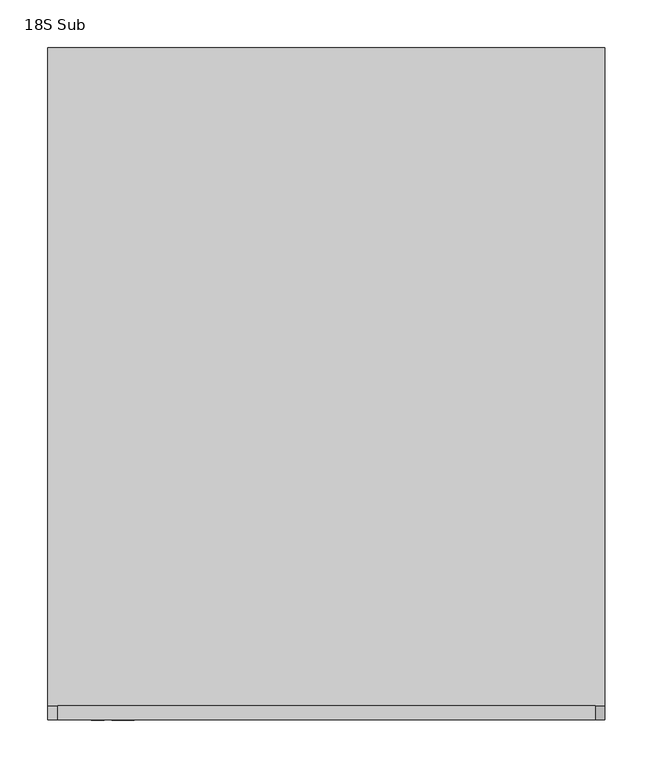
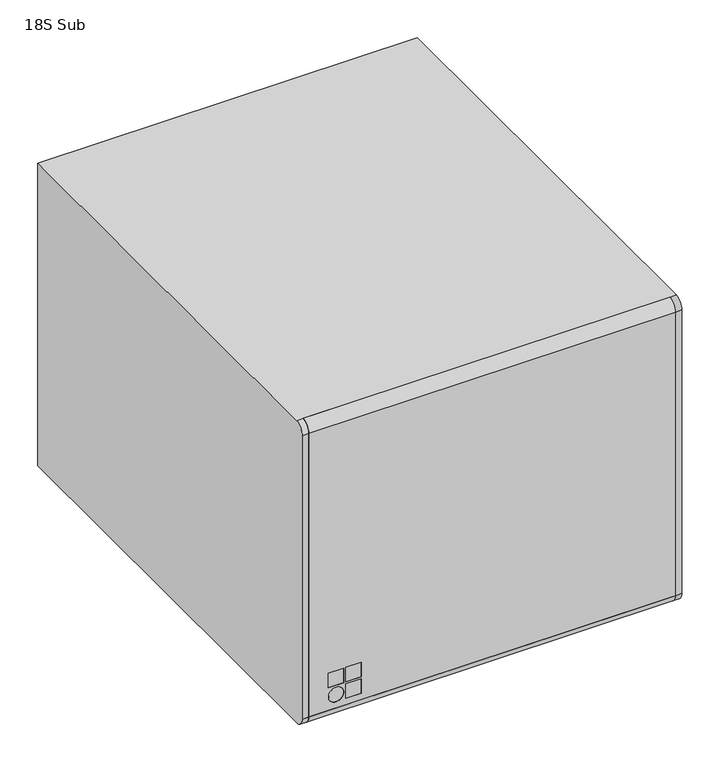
"""IFC4 building model written with IfcOpenShell, lengths in millimetres: proxy geometry, d&b xS-Series 18S Subwoofer : 18S Sub."""

from ifc_helpers import new_model, si_unit, point, frame, frame_2d, origin, place, context, project, spatial, polyline, circle_curve, trimmed, segment, composite_curve, outline, extrude, source, transform, mapped, element, save
from ifc_brep_helpers import plane_surface, cylinder_surface, revolved_surface, advanced_brep


def proxy_18s_sub_8416c1b3(model_context):
    return source(origin(), model_context, "Body", "SolidModel", [
        extrude(outline(composite_curve([segment(trimmed(circle_curve(frame_2d((-220.0, 307.0)), 18.25), [point((-201.75, 307.0))], [point((-238.25, 307.0))], False, "CARTESIAN"), True, "CONTINUOUS"), segment(trimmed(circle_curve(frame_2d((-220.0, 307.0)), 18.25), [point((-238.25, 307.0))], [point((-201.75, 307.0))], False, "CARTESIAN"), True, "CONTINUOUS")], self_intersect=False)), frame((0.0, 0.0, -247.0), z_axis=(0.0, 0.0, 1.0), x_axis=(1.0, 0.0, 0.0)), (0.0, 0.0, 1.0), 3.0),
        extrude(outline(composite_curve([segment(trimmed(circle_curve(frame_2d((220.0, 307.0)), 18.25), [point((238.25, 307.0))], [point((201.75, 307.0))], False, "CARTESIAN"), True, "CONTINUOUS"), segment(trimmed(circle_curve(frame_2d((220.0, 307.0)), 18.25), [point((201.75, 307.0))], [point((238.25, 307.0))], False, "CARTESIAN"), True, "CONTINUOUS")], self_intersect=False)), frame((0.0, 0.0, -247.0), z_axis=(0.0, 0.0, 1.0), x_axis=(1.0, 0.0, 0.0)), (0.0, 0.0, 1.0), 3.0),
        extrude(outline(composite_curve([segment(trimmed(circle_curve(frame_2d((-220.0, -288.0)), 18.25), [point((-201.75, -288.0))], [point((-238.25, -288.0))], False, "CARTESIAN"), True, "CONTINUOUS"), segment(trimmed(circle_curve(frame_2d((-220.0, -288.0)), 18.25), [point((-238.25, -288.0))], [point((-201.75, -288.0))], False, "CARTESIAN"), True, "CONTINUOUS")], self_intersect=False)), frame((0.0, 0.0, -247.0), z_axis=(0.0, 0.0, 1.0), x_axis=(1.0, 0.0, 0.0)), (0.0, 0.0, 1.0), 3.0),
        extrude(outline(composite_curve([segment(trimmed(circle_curve(frame_2d((220.0, -288.0)), 18.25), [point((238.25, -288.0))], [point((201.75, -288.0))], False, "CARTESIAN"), True, "CONTINUOUS"), segment(trimmed(circle_curve(frame_2d((220.0, -288.0)), 18.25), [point((201.75, -288.0))], [point((238.25, -288.0))], False, "CARTESIAN"), True, "CONTINUOUS")], self_intersect=False)), frame((0.0, 0.0, -247.0), z_axis=(0.0, 0.0, 1.0), x_axis=(1.0, 0.0, 0.0)), (0.0, 0.0, 1.0), 3.0),
        advanced_brep(
        [(280.0, -353.0, -229.0), (280.0, -338.0, -244.0), (280.0, -338.0, -239.0), (280.0, -348.0, -229.0), (280.0, -348.0, 229.0), (280.0, -338.0, 239.0), (280.0, -338.0, 244.0), (280.0, -353.0, 229.0), (-280.0, -353.0, -229.0), (-280.0, -353.0, 229.0), (-280.0, -338.0, 244.0), (-280.0, -338.0, 239.0), (-280.0, -348.0, 229.0), (-280.0, -348.0, -229.0), (-280.0, -338.0, -239.0), (-280.0, -338.0, -244.0), (-226.6666667, -353.0, -169.0), (-226.6666667, -353.0, -192.3333333), (-250.0, -353.0, -192.3333333), (-250.0, -353.0, -169.0), (-200.0, -353.0, -169.0), (-200.0, -353.0, -192.3333333), (-223.3333333, -353.0, -192.3333333), (-223.3333333, -353.0, -169.0), (-200.0, -353.0, -195.6666667), (-200.0, -353.0, -219.0), (-223.3333333, -353.0, -219.0), (-223.3333333, -353.0, -195.6666667), (-238.3333333, -353.0, -219.0), (-238.3333333, -353.0, -195.6666667), (-226.6666667, -348.0, -192.3333333), (-226.6666667, -348.0, -169.0), (-250.0, -348.0, -169.0), (-250.0, -348.0, -192.3333333), (-200.0, -348.0, -192.3333333), (-200.0, -348.0, -169.0), (-223.3333333, -348.0, -169.0), (-223.3333333, -348.0, -192.3333333), (-200.0, -348.0, -219.0), (-200.0, -348.0, -195.6666667), (-223.3333333, -348.0, -195.6666667), (-223.3333333, -348.0, -219.0), (-238.3333333, -348.0, -195.6666667), (-238.3333333, -348.0, -219.0)],
        [
            (0, 1, circle_curve(frame((280.0, -338.0, -229.0), z_axis=(1.0, 0.0, 0.0), x_axis=(0.0, 1.0, 0.0)), 15.0)),
            (1, 2),
            (2, 3, circle_curve(frame((280.0, -338.0, -229.0), z_axis=(-1.0, 0.0, 0.0), x_axis=(0.0, 1.0, 0.0)), 10.0)),
            (3, 4),
            (4, 5, circle_curve(frame((280.0, -338.0, 229.0), z_axis=(-1.0, 0.0, 0.0), x_axis=(0.0, 1.0, 0.0)), 10.0)),
            (5, 6),
            (6, 7, circle_curve(frame((280.0, -338.0, 229.0), z_axis=(1.0, 0.0, 0.0), x_axis=(0.0, 1.0, 0.0)), 15.0)),
            (7, 0),
            (8, 9),
            (9, 10, circle_curve(frame((-280.0, -338.0, 229.0), z_axis=(-1.0, 0.0, 0.0), x_axis=(0.0, 1.0, 0.0)), 15.0)),
            (10, 11),
            (11, 12, circle_curve(frame((-280.0, -338.0, 229.0), z_axis=(1.0, 0.0, 0.0), x_axis=(0.0, 1.0, 0.0)), 10.0)),
            (12, 13),
            (13, 14, circle_curve(frame((-280.0, -338.0, -229.0), z_axis=(1.0, 0.0, 0.0), x_axis=(0.0, 1.0, 0.0)), 10.0)),
            (14, 15),
            (15, 8, circle_curve(frame((-280.0, -338.0, -229.0), z_axis=(-1.0, 0.0, 0.0), x_axis=(0.0, 1.0, 0.0)), 15.0)),
            (6, 10),
            (9, 7),
            (8, 0),
            (16, 17),
            (17, 18),
            (18, 19),
            (19, 16),
            (20, 21),
            (21, 22),
            (22, 23),
            (23, 20),
            (24, 25),
            (25, 26),
            (26, 27),
            (27, 24),
            (28, 29, circle_curve(frame((-238.3333333, -353.0, -207.3333333), z_axis=(0.0, 1.0, 0.0), x_axis=(0.0, 0.0, 1.0)), 11.6666667)),
            (29, 28, circle_curve(frame((-238.3333333, -353.0, -207.3333333), z_axis=(0.0, 1.0, 0.0), x_axis=(0.0, 0.0, 1.0)), 11.6666667)),
            (15, 1),
            (14, 2),
            (13, 3),
            (12, 4),
            (30, 31),
            (31, 32),
            (32, 33),
            (33, 30),
            (34, 35),
            (35, 36),
            (36, 37),
            (37, 34),
            (38, 39),
            (39, 40),
            (40, 41),
            (41, 38),
            (42, 43, circle_curve(frame((-238.3333333, -348.0, -207.3333333), z_axis=(0.0, -1.0, 0.0), x_axis=(0.0, 0.0, 1.0)), 11.6666667)),
            (43, 42, circle_curve(frame((-238.3333333, -348.0, -207.3333333), z_axis=(0.0, -1.0, 0.0), x_axis=(0.0, 0.0, 1.0)), 11.6666667)),
            (11, 5),
            (16, 31),
            (30, 17),
            (33, 18),
            (32, 19),
            (20, 35),
            (34, 21),
            (37, 22),
            (36, 23),
            (24, 39),
            (38, 25),
            (41, 26),
            (40, 27),
            (28, 43),
            (42, 29),
        ],
        [
            plane_surface(frame((280.0, -323.0, -229.0), z_axis=(1.0, 0.0, 0.0), x_axis=(0.0, 0.0, 1.0))),
            plane_surface(frame((-280.0, -323.0, -229.0), z_axis=(-1.0, 0.0, 0.0), x_axis=(0.0, 0.0, -1.0))),
            cylinder_surface(frame((-280.0, -338.0, 229.0), z_axis=(1.0, 0.0, 0.0), x_axis=(0.0, 1.0, 0.0)), 15.0),
            plane_surface(frame((280.0, -353.0, 229.0), z_axis=(0.0, -1.0, 0.0), x_axis=(-1.0, 0.0, 0.0))),
            cylinder_surface(frame((-280.0, -338.0, -229.0), z_axis=(1.0, 0.0, 0.0), x_axis=(0.0, 1.0, 0.0)), 15.0),
            plane_surface(frame((280.0, -338.0, -244.0), z_axis=(0.0, 1.0, 0.0), x_axis=(-1.0, 0.0, 0.0))),
            revolved_surface(polyline([(-280.0, -328.0, -229.0), (280.0, -328.0, -229.0)]), (-280.0, -338.0, -229.0), (-1.0, 0.0, 0.0)),
            plane_surface(frame((280.0, -348.0, -229.0), z_axis=(0.0, 1.0, 0.0), x_axis=(-1.0, 0.0, 0.0))),
            revolved_surface(polyline([(-280.0, -328.0, 229.0), (280.0, -328.0, 229.0)]), (-280.0, -338.0, 229.0), (-1.0, 0.0, 0.0)),
            plane_surface(frame((280.0, -338.0, 239.0), z_axis=(0.0, 1.0, 0.0), x_axis=(-1.0, 0.0, 0.0))),
            plane_surface(frame((-226.6666667, -353.0, -192.3333333), z_axis=(-1.0, 0.0, 0.0), x_axis=(0.0, 1.0, 0.0))),
            plane_surface(frame((-250.0, -353.0, -192.3333333), z_axis=(0.0, 0.0, 1.0), x_axis=(0.0, 1.0, 0.0))),
            plane_surface(frame((-250.0, -353.0, -169.0), z_axis=(1.0, 0.0, 0.0), x_axis=(0.0, 1.0, 0.0))),
            plane_surface(frame((-226.6666667, -353.0, -169.0), z_axis=(0.0, 0.0, -1.0), x_axis=(0.0, 1.0, 0.0))),
            plane_surface(frame((-200.0, -353.0, -192.3333333), z_axis=(-1.0, 0.0, 0.0), x_axis=(0.0, 1.0, 0.0))),
            plane_surface(frame((-223.3333333, -353.0, -192.3333333), z_axis=(0.0, 0.0, 1.0), x_axis=(0.0, 1.0, 0.0))),
            plane_surface(frame((-223.3333333, -353.0, -169.0), z_axis=(1.0, 0.0, 0.0), x_axis=(0.0, 1.0, 0.0))),
            plane_surface(frame((-200.0, -353.0, -169.0), z_axis=(0.0, 0.0, -1.0), x_axis=(0.0, 1.0, 0.0))),
            plane_surface(frame((-200.0, -353.0, -219.0), z_axis=(-1.0, 0.0, 0.0), x_axis=(0.0, 1.0, 0.0))),
            plane_surface(frame((-223.3333333, -353.0, -219.0), z_axis=(0.0, 0.0, 1.0), x_axis=(0.0, 1.0, 0.0))),
            plane_surface(frame((-223.3333333, -353.0, -195.6666667), z_axis=(1.0, 0.0, 0.0), x_axis=(0.0, 1.0, 0.0))),
            plane_surface(frame((-200.0, -353.0, -195.6666667), z_axis=(0.0, 0.0, -1.0), x_axis=(0.0, 1.0, 0.0))),
            revolved_surface(polyline([(-238.3333333, -353.0, -195.66666659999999), (-238.3333333, -348.0, -195.66666659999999)]), (-238.3333333, -353.0, -207.3333333), (0.0, -1.0, 0.0)),
        ],
        [
            (0, [[1, 2, 3, 4, 5, 6, 7, 8]]),
            (1, [[9, 10, 11, 12, 13, 14, 15, 16]]),
            (2, [[-7, 17, -10, 18]]),
            (3, [[-8, -18, -9, 19], [20, 21, 22, 23], [24, 25, 26, 27], [28, 29, 30, 31], [32, 33]]),
            (4, [[-1, -19, -16, 34]]),
            (5, [[-2, -34, -15, 35]]),
            (6, [[-3, -35, -14, 36]]),
            (7, [[-4, -36, -13, 37], [38, 39, 40, 41], [42, 43, 44, 45], [46, 47, 48, 49], [50, 51]]),
            (8, [[-5, -37, -12, 52]]),
            (9, [[-6, -52, -11, -17]]),
            (10, [[53, -38, 54, -20]]),
            (11, [[-54, -41, 55, -21]]),
            (12, [[-55, -40, 56, -22]]),
            (13, [[-53, -23, -56, -39]]),
            (14, [[57, -42, 58, -24]]),
            (15, [[-58, -45, 59, -25]]),
            (16, [[-59, -44, 60, -26]]),
            (17, [[-57, -27, -60, -43]]),
            (18, [[61, -46, 62, -28]]),
            (19, [[-62, -49, 63, -29]]),
            (20, [[-63, -48, 64, -30]]),
            (21, [[-61, -31, -64, -47]]),
            (22, [[65, -50, 66, -32]]),
            (22, [[-65, -33, -66, -51]]),
        ],
    ),
        extrude(outline(polyline([(-226.6666667, -353.0), (-250.0, -353.0), (-250.0, -348.0), (-226.6666667, -348.0), (-226.6666667, -353.0)])), frame((0.0, 0.0, -192.3333333), z_axis=(0.0, 0.0, 1.0), x_axis=(1.0, 0.0, 0.0)), (0.0, 0.0, 1.0), 23.3333333),
        extrude(outline(polyline([(-200.0, -353.0), (-223.3333333, -353.0), (-223.3333333, -348.0), (-200.0, -348.0), (-200.0, -353.0)])), frame((0.0, 0.0, -192.3333333), z_axis=(0.0, 0.0, 1.0), x_axis=(1.0, 0.0, 0.0)), (0.0, 0.0, 1.0), 23.3333333),
        extrude(outline(polyline([(-200.0, -353.0), (-223.3333333, -353.0), (-223.3333333, -348.0), (-200.0, -348.0), (-200.0, -353.0)])), frame((0.0, 0.0, -219.0), z_axis=(0.0, 0.0, 1.0), x_axis=(1.0, 0.0, 0.0)), (0.0, 0.0, 1.0), 23.3333333),
        extrude(outline(composite_curve([segment(trimmed(circle_curve(frame_2d((-207.3333333, -238.3333333)), 11.6666667), [point((-219.0, -238.3333333))], [point((-195.6666667, -238.3333333))], False, "CARTESIAN"), True, "CONTINUOUS"), segment(trimmed(circle_curve(frame_2d((-207.3333333, -238.3333333)), 11.6666667), [point((-195.6666667, -238.3333333))], [point((-219.0, -238.3333333))], False, "CARTESIAN"), True, "CONTINUOUS")], self_intersect=False)), frame((0.0, -353.0, 0.0), z_axis=(0.0, 1.0, 0.0), x_axis=(0.0, 0.0, 1.0)), (0.0, 0.0, 1.0), 5.0),
        advanced_brep(
        [(280.0, -338.0, -244.0), (-280.0, -338.0, -244.0), (-290.0, -338.0, -244.0), (-290.0, 347.0, -244.0), (290.0, 347.0, -244.0), (290.0, -338.0, -244.0), (290.0, 347.0, 244.0), (-290.0, 347.0, 244.0), (105.0, 347.0, -145.0), (115.0, 347.0, -135.0), (115.0, 347.0, -85.0), (105.0, 347.0, -75.0), (15.0, 347.0, -75.0), (5.0, 347.0, -85.0), (5.0, 347.0, -135.0), (15.0, 347.0, -145.0), (-280.0, -338.0, 244.0), (280.0, -338.0, 244.0), (290.0, -338.0, 244.0), (-290.0, -338.0, 244.0), (-280.0, -338.0, 239.0), (280.0, -338.0, 239.0), (-280.0, -348.0, 229.0), (280.0, -348.0, 229.0), (-280.0, -348.0, -229.0), (280.0, -348.0, -229.0), (-280.0, -338.0, -239.0), (280.0, -338.0, -239.0), (280.0, -353.0, -229.0), (280.0, -353.0, 229.0), (290.0, -353.0, 229.0), (290.0, -353.0, -229.0), (-280.0, -353.0, 229.0), (-280.0, -353.0, -229.0), (-290.0, -353.0, -229.0), (-290.0, -353.0, 229.0), (115.0, 344.0, -135.0), (105.0, 344.0, -145.0), (15.0, 344.0, -145.0), (5.0, 344.0, -135.0), (5.0, 344.0, -85.0), (15.0, 344.0, -75.0), (105.0, 344.0, -75.0), (115.0, 344.0, -85.0), (95.0, 344.0, -85.0), (25.0, 344.0, -85.0), (15.0, 344.0, -95.0), (15.0, 344.0, -125.0), (25.0, 344.0, -135.0), (95.0, 344.0, -135.0), (105.0, 344.0, -125.0), (105.0, 344.0, -95.0), (25.0, 334.0, -135.0), (15.0, 334.0, -125.0), (15.0, 334.0, -95.0), (25.0, 334.0, -85.0), (46.2039304, 334.0, -85.0), (46.2039304, 334.0, -135.0), (95.0, 334.0, -135.0), (105.0, 334.0, -125.0), (95.0, 334.0, -85.0), (105.0, 334.0, -95.0), (46.2039304, 299.0, -85.0), (95.0, 299.0, -85.0), (105.0, 299.0, -95.0), (105.0, 299.0, -125.0), (95.0, 299.0, -135.0), (46.2039304, 299.0, -135.0)],
        [
            (0, 1),
            (1, 2),
            (2, 3),
            (3, 4),
            (4, 5),
            (5, 0),
            (6, 4),
            (3, 7),
            (7, 6),
            (8, 9, circle_curve(frame((105.0, 347.0, -135.0), z_axis=(0.0, -1.0, 0.0), x_axis=(-1.0, 0.0, 0.0)), 10.0)),
            (9, 10),
            (10, 11, circle_curve(frame((105.0, 347.0, -85.0), z_axis=(0.0, -1.0, 0.0), x_axis=(-1.0, 0.0, 0.0)), 10.0)),
            (11, 12),
            (12, 13, circle_curve(frame((15.0, 347.0, -85.0), z_axis=(0.0, -1.0, 0.0), x_axis=(-1.0, 0.0, 0.0)), 10.0)),
            (13, 14),
            (14, 15, circle_curve(frame((15.0, 347.0, -135.0), z_axis=(0.0, -1.0, 0.0), x_axis=(-1.0, 0.0, 0.0)), 10.0)),
            (15, 8),
            (16, 17),
            (17, 18),
            (18, 6),
            (7, 19),
            (19, 16),
            (16, 20),
            (20, 21),
            (21, 17),
            (20, 22, circle_curve(frame((-280.0, -338.0, 229.0), z_axis=(1.0, 0.0, 0.0), x_axis=(0.0, 1.0, 0.0)), 10.0)),
            (22, 23),
            (23, 21, circle_curve(frame((280.0, -338.0, 229.0), z_axis=(-1.0, 0.0, 0.0), x_axis=(0.0, 1.0, 0.0)), 10.0)),
            (22, 24),
            (24, 25),
            (25, 23),
            (24, 26, circle_curve(frame((-280.0, -338.0, -229.0), z_axis=(1.0, 0.0, 0.0), x_axis=(0.0, 1.0, 0.0)), 10.0)),
            (26, 27),
            (27, 25, circle_curve(frame((280.0, -338.0, -229.0), z_axis=(-1.0, 0.0, 0.0), x_axis=(0.0, 1.0, 0.0)), 10.0)),
            (0, 27),
            (26, 1),
            (0, 28, circle_curve(frame((280.0, -338.0, -229.0), z_axis=(-1.0, 0.0, 0.0), x_axis=(0.0, 1.0, 0.0)), 15.0)),
            (28, 29),
            (29, 17, circle_curve(frame((280.0, -338.0, 229.0), z_axis=(-1.0, 0.0, 0.0), x_axis=(0.0, 1.0, 0.0)), 15.0)),
            (18, 30, circle_curve(frame((290.0, -338.0, 229.0), z_axis=(1.0, 0.0, 0.0), x_axis=(0.0, 1.0, 0.0)), 15.0)),
            (30, 31),
            (31, 5, circle_curve(frame((290.0, -338.0, -229.0), z_axis=(1.0, 0.0, 0.0), x_axis=(0.0, 1.0, 0.0)), 15.0)),
            (29, 30),
            (28, 31),
            (16, 32, circle_curve(frame((-280.0, -338.0, 229.0), z_axis=(1.0, 0.0, 0.0), x_axis=(0.0, 1.0, 0.0)), 15.0)),
            (32, 33),
            (33, 1, circle_curve(frame((-280.0, -338.0, -229.0), z_axis=(1.0, 0.0, 0.0), x_axis=(0.0, 1.0, 0.0)), 15.0)),
            (2, 34, circle_curve(frame((-290.0, -338.0, -229.0), z_axis=(-1.0, 0.0, 0.0), x_axis=(0.0, 1.0, 0.0)), 15.0)),
            (34, 35),
            (35, 19, circle_curve(frame((-290.0, -338.0, 229.0), z_axis=(-1.0, 0.0, 0.0), x_axis=(0.0, 1.0, 0.0)), 15.0)),
            (35, 32),
            (34, 33),
            (36, 37, circle_curve(frame((105.0, 344.0, -135.0), z_axis=(0.0, 1.0, 0.0), x_axis=(-1.0, 0.0, 0.0)), 10.0)),
            (37, 38),
            (38, 39, circle_curve(frame((15.0, 344.0, -135.0), z_axis=(0.0, 1.0, 0.0), x_axis=(-1.0, 0.0, 0.0)), 10.0)),
            (39, 40),
            (40, 41, circle_curve(frame((15.0, 344.0, -85.0), z_axis=(0.0, 1.0, 0.0), x_axis=(-1.0, 0.0, 0.0)), 10.0)),
            (41, 42),
            (42, 43, circle_curve(frame((105.0, 344.0, -85.0), z_axis=(0.0, 1.0, 0.0), x_axis=(-1.0, 0.0, 0.0)), 10.0)),
            (43, 36),
            (44, 45),
            (45, 46, circle_curve(frame((25.0, 344.0, -95.0), z_axis=(0.0, -1.0, 0.0), x_axis=(-1.0, 0.0, 0.0)), 10.0)),
            (46, 47),
            (47, 48, circle_curve(frame((25.0, 344.0, -125.0), z_axis=(0.0, -1.0, 0.0), x_axis=(-1.0, 0.0, 0.0)), 10.0)),
            (48, 49),
            (49, 50, circle_curve(frame((95.0, 344.0, -125.0), z_axis=(0.0, -1.0, 0.0), x_axis=(-1.0, 0.0, 0.0)), 10.0)),
            (50, 51),
            (51, 44, circle_curve(frame((95.0, 344.0, -95.0), z_axis=(0.0, -1.0, 0.0), x_axis=(-1.0, 0.0, 0.0)), 10.0)),
            (36, 9),
            (8, 37),
            (15, 38),
            (14, 39),
            (13, 40),
            (12, 41),
            (11, 42),
            (10, 43),
            (52, 53, circle_curve(frame((25.0, 334.0, -125.0), z_axis=(0.0, 1.0, 0.0), x_axis=(-1.0, 0.0, 0.0)), 10.0)),
            (53, 54),
            (54, 55, circle_curve(frame((25.0, 334.0, -95.0), z_axis=(0.0, 1.0, 0.0), x_axis=(-1.0, 0.0, 0.0)), 10.0)),
            (55, 56),
            (56, 57),
            (57, 52),
            (54, 46),
            (45, 55),
            (53, 47),
            (52, 48),
            (49, 58),
            (58, 59, circle_curve(frame((95.0, 334.0, -125.0), z_axis=(0.0, -1.0, 0.0), x_axis=(-1.0, 0.0, 0.0)), 10.0)),
            (59, 50),
            (60, 44),
            (51, 61),
            (61, 60, circle_curve(frame((95.0, 334.0, -95.0), z_axis=(0.0, -1.0, 0.0), x_axis=(-1.0, 0.0, 0.0)), 10.0)),
            (62, 63),
            (63, 64, circle_curve(frame((95.0, 299.0, -95.0), z_axis=(0.0, 1.0, 0.0), x_axis=(-1.0, 0.0, 0.0)), 10.0)),
            (64, 65),
            (65, 66, circle_curve(frame((95.0, 299.0, -125.0), z_axis=(0.0, 1.0, 0.0), x_axis=(-1.0, 0.0, 0.0)), 10.0)),
            (66, 67),
            (67, 62),
            (67, 57),
            (56, 62),
            (60, 63),
            (61, 64),
            (59, 65),
            (58, 66),
        ],
        [
            plane_surface(frame((280.0, -338.0, -244.0), z_axis=(0.0, 0.0, -1.0), x_axis=(-1.0, 0.0, 0.0))),
            plane_surface(frame((280.0, 347.0, -244.0), z_axis=(0.0, 1.0, 0.0), x_axis=(-1.0, 0.0, 0.0))),
            plane_surface(frame((280.0, 347.0, 244.0), z_axis=(0.0, 0.0, 1.0), x_axis=(-1.0, 0.0, 0.0))),
            plane_surface(frame((280.0, -338.0, 244.0), z_axis=(0.0, -1.0, 0.0), x_axis=(-1.0, 0.0, 0.0))),
            cylinder_surface(frame((-280.0, -338.0, 229.0), z_axis=(1.0, 0.0, 0.0), x_axis=(0.0, 1.0, 0.0)), 10.0),
            plane_surface(frame((280.0, -348.0, 229.0), z_axis=(0.0, -1.0, 0.0), x_axis=(-1.0, 0.0, 0.0))),
            cylinder_surface(frame((-280.0, -338.0, -229.0), z_axis=(1.0, 0.0, 0.0), x_axis=(0.0, 1.0, 0.0)), 10.0),
            plane_surface(frame((280.0, -338.0, -239.0), z_axis=(0.0, -1.0, 0.0), x_axis=(-1.0, 0.0, 0.0))),
            plane_surface(frame((280.0, 265.5, 244.0), z_axis=(-1.0, 0.0, 0.0), x_axis=(0.0, 1.0, 0.0))),
            plane_surface(frame((290.0, 265.5, 244.0), z_axis=(1.0, 0.0, 0.0), x_axis=(0.0, -1.0, 0.0))),
            cylinder_surface(frame((290.0, -338.0, 229.0), z_axis=(-1.0, 0.0, 0.0), x_axis=(0.0, 1.0, 0.0)), 15.0),
            plane_surface(frame((280.0, -353.0, -229.0), z_axis=(0.0, -1.0, 0.0), x_axis=(1.0, 0.0, 0.0))),
            cylinder_surface(frame((290.0, -338.0, -229.0), z_axis=(-1.0, 0.0, 0.0), x_axis=(0.0, 1.0, 0.0)), 15.0),
            plane_surface(frame((-280.0, -323.0, 229.0), z_axis=(1.0, 0.0, 0.0), x_axis=(0.0, 0.0, 1.0))),
            plane_surface(frame((-290.0, -323.0, 229.0), z_axis=(-1.0, 0.0, 0.0), x_axis=(0.0, 0.0, -1.0))),
            cylinder_surface(frame((-290.0, -338.0, 229.0), z_axis=(1.0, 0.0, 0.0), x_axis=(0.0, 1.0, 0.0)), 15.0),
            plane_surface(frame((-280.0, -353.0, 229.0), z_axis=(0.0, -1.0, 0.0), x_axis=(-1.0, 0.0, 0.0))),
            cylinder_surface(frame((-290.0, -338.0, -229.0), z_axis=(1.0, 0.0, 0.0), x_axis=(0.0, 1.0, 0.0)), 15.0),
            plane_surface(frame((95.0, 344.0, -135.0), z_axis=(0.0, 1.0, 0.0), x_axis=(0.0, 0.0, -1.0))),
            revolved_surface(polyline([(95.0, 347.0, -135.0), (95.0, 344.0, -135.0)]), (105.0, 344.0, -135.0), (0.0, 1.0, 0.0)),
            plane_surface(frame((105.0, 347.0, -145.0), z_axis=(0.0, 0.0, 1.0), x_axis=(0.0, -1.0, 0.0))),
            revolved_surface(polyline([(5.0, 347.0, -135.0), (5.0, 344.0, -135.0)]), (15.0, 344.0, -135.0), (0.0, 1.0, 0.0)),
            plane_surface(frame((5.0, 347.0, -135.0), z_axis=(1.0, 0.0, 0.0), x_axis=(0.0, -1.0, 0.0))),
            revolved_surface(polyline([(5.0, 347.0, -85.0), (5.0, 344.0, -85.0)]), (15.0, 344.0, -85.0), (0.0, 1.0, 0.0)),
            plane_surface(frame((15.0, 347.0, -75.0), z_axis=(0.0, 0.0, -1.0), x_axis=(0.0, -1.0, 0.0))),
            revolved_surface(polyline([(95.0, 347.0, -85.0), (95.0, 344.0, -85.0)]), (105.0, 344.0, -85.0), (0.0, 1.0, 0.0)),
            plane_surface(frame((115.0, 347.0, -85.0), z_axis=(-1.0, 0.0, 0.0), x_axis=(0.0, -1.0, 0.0))),
            plane_surface(frame((85.0, 334.0, -95.0), z_axis=(0.0, 1.0, 0.0), x_axis=(0.0, 0.0, -1.0))),
            revolved_surface(polyline([(15.0, 344.0, -95.0), (15.0, 334.0, -95.0)]), (25.0, 334.0, -95.0), (0.0, 1.0, 0.0)),
            plane_surface(frame((15.0, 344.0, -125.0), z_axis=(1.0, 0.0, 0.0), x_axis=(0.0, -1.0, 0.0))),
            revolved_surface(polyline([(15.0, 344.0, -125.0), (15.0, 334.0, -125.0)]), (25.0, 334.0, -125.0), (0.0, 1.0, 0.0)),
            revolved_surface(polyline([(85.0, 344.0, -125.0), (85.0, 334.0, -125.0)]), (95.0, 334.0, -125.0), (0.0, 1.0, 0.0)),
            revolved_surface(polyline([(85.0, 344.0, -95.0), (85.0, 334.0, -95.0)]), (95.0, 334.0, -95.0), (0.0, 1.0, 0.0)),
            plane_surface(frame((95.0, 299.0, -85.0), z_axis=(0.0, 1.0, 0.0), x_axis=(-1.0, 0.0, 0.0))),
            plane_surface(frame((46.2039304, 334.0, -135.0), z_axis=(1.0, 0.0, 0.0), x_axis=(0.0, -1.0, 0.0))),
            plane_surface(frame((46.2039304, 334.0, -85.0), z_axis=(0.0, 0.0, -1.0), x_axis=(0.0, -1.0, 0.0))),
            revolved_surface(polyline([(85.0, 334.0, -95.0), (85.0, 299.0, -95.0)]), (95.0, 299.0, -95.0), (0.0, 1.0, 0.0)),
            plane_surface(frame((105.0, 334.0, -95.0), z_axis=(-1.0, 0.0, 0.0), x_axis=(0.0, -1.0, 0.0))),
            revolved_surface(polyline([(85.0, 334.0, -125.0), (85.0, 299.0, -125.0)]), (95.0, 299.0, -125.0), (0.0, 1.0, 0.0)),
            plane_surface(frame((95.0, 334.0, -135.0), z_axis=(0.0, 0.0, 1.0), x_axis=(0.0, -1.0, 0.0))),
        ],
        [
            (0, [[1, 2, 3, 4, 5, 6]]),
            (1, [[7, -4, 8, 9], [10, 11, 12, 13, 14, 15, 16, 17]]),
            (2, [[18, 19, 20, -9, 21, 22]]),
            (3, [[-18, 23, 24, 25]]),
            (4, [[-24, 26, 27, 28]]),
            (5, [[-27, 29, 30, 31]]),
            (6, [[-30, 32, 33, 34]]),
            (7, [[-1, 35, -33, 36]]),
            (8, [[37, 38, 39, -25, -28, -31, -34, -35]]),
            (9, [[40, 41, 42, -5, -7, -20]]),
            (10, [[-39, 43, -40, -19]]),
            (11, [[-38, 44, -41, -43]]),
            (12, [[-37, -6, -42, -44]]),
            (13, [[45, 46, 47, -36, -32, -29, -26, -23]]),
            (14, [[-21, -8, -3, 48, 49, 50]]),
            (15, [[-45, -22, -50, 51]]),
            (16, [[-46, -51, -49, 52]]),
            (17, [[-47, -52, -48, -2]]),
            (18, [[53, 54, 55, 56, 57, 58, 59, 60], [61, 62, 63, 64, 65, 66, 67, 68]]),
            (19, [[-53, 69, -10, 70]]),
            (20, [[-54, -70, -17, 71]]),
            (21, [[-55, -71, -16, 72]]),
            (22, [[-56, -72, -15, 73]]),
            (23, [[-57, -73, -14, 74]]),
            (24, [[-58, -74, -13, 75]]),
            (25, [[-59, -75, -12, 76]]),
            (26, [[-60, -76, -11, -69]]),
            (27, [[77, 78, 79, 80, 81, 82]]),
            (28, [[-79, 83, -62, 84]]),
            (29, [[-78, 85, -63, -83]]),
            (30, [[-77, 86, -64, -85]]),
            (31, [[87, 88, 89, -66]]),
            (32, [[90, -68, 91, 92]]),
            (33, [[93, 94, 95, 96, 97, 98]]),
            (34, [[-98, 99, -81, 100]]),
            (35, [[-93, -100, -80, -84, -61, -90, 101]]),
            (36, [[-94, -101, -92, 102]]),
            (37, [[-95, -102, -91, -67, -89, 103]]),
            (38, [[-96, -103, -88, 104]]),
            (39, [[-97, -104, -87, -65, -86, -82, -99]]),
        ],
    ),
    ])


if __name__ == "__main__":
    model = new_model("IFC4")
    model_context = context("Model", 3, world=origin())
    ifc_project = project(units=[si_unit("LENGTHUNIT", "METRE", prefix="MILLI")], contexts=[model_context])
    site = spatial("IfcSite", under=ifc_project)
    building = spatial("IfcBuilding", under=site)
    placement = place(None, origin())
    proxy_18s_sub_shape = proxy_18s_sub_8416c1b3(model_context)
    element("IfcBuildingElementProxy", 1, Name="d&b xS-Series 18S Subwoofer : 18S Sub", ObjectType="d&b xS-Series 18S Subwoofer : 18S Sub", at=placement, inside=building, context=model_context, shape_type="MappedRepresentation", body=[
        mapped(proxy_18s_sub_shape, transform((0.0, 0.0, 0.0), x_axis=(1.0, 0.0, 0.0), y_axis=(0.0, 1.0, 0.0), z_axis=(0.0, 0.0, 1.0))),
    ])
    save(model, "model.ifc")
